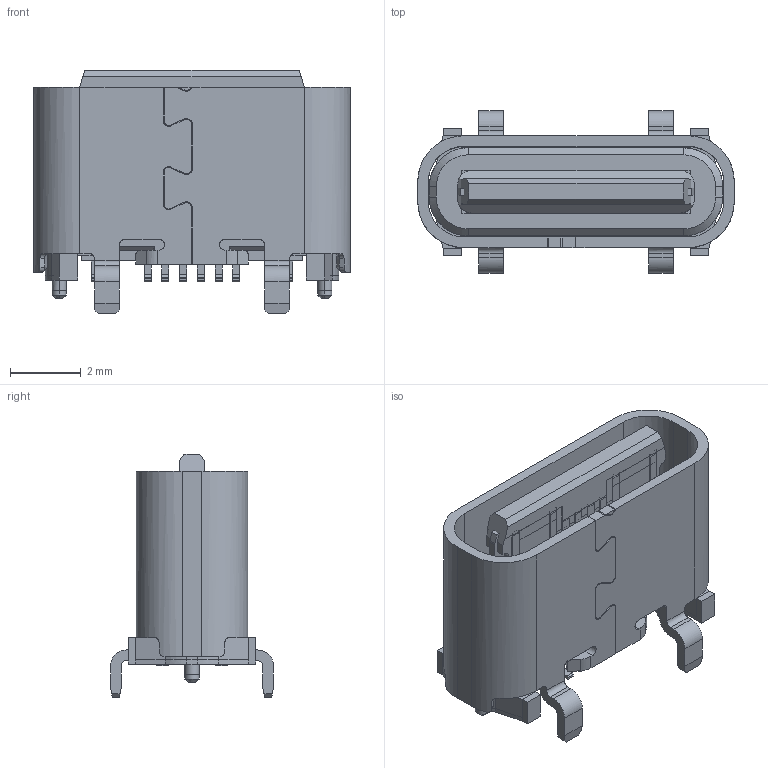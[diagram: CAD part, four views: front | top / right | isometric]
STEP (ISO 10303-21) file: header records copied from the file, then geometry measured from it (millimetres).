
FILE_DESCRIPTION (( 'STEP AP203' ), '1' );
FILE_NAME ('郔陔TC 16P 蕾泂5.5.STEP', '2021-08-27T08:33:48', ( '' ), ( '' ), 'SwSTEP 2.0', 'SolidWorks 2020', '' );
FILE_SCHEMA (( 'CONFIG_CONTROL_DESIGN' ));
Length unit declared in the file: millimetre
Products named in the file (15): 6_5HMD0003_ASM_27_ASM_1_ASM_2_ASM.STEP; 6_5HMD0002_30_ASM_1_ASM_2_ASM_1.STEP; TC 16P 6.5H ________ ______.STEP; 6_5H0006_____ ____.STEP; 最新TC 16P  立贴6.5大脚脚长0.95.STEP; 郔陔TC 16P  蕾泂5.5; 6_5HMD__________.STEP; TC 16P 6.5 ____________-1.STEP; TC 16P 6.5 ____________.STEP; 6_5H MD003______.STEP; TC 16P 6.5H __________.STEP; 6_40001_ASM_13_ASM_1_ASM_2_ASM_1-1.STEP; TC 16P 6.5H __________-0.STEP; 6_400_____.STEP
Assembly tree (14 placements, depth 6):
  郔陔TC 16P  蕾泂5.5
    最新TC 16P  立贴6.5大脚脚长0.95.STEP
      TC 16P 6.5 ____________.STEP
        TC 16P 6.5H __________.STEP
        TC 16P 6.5H ________ ______.STEP
      TC 16P 6.5 ____________-1.STEP
        TC 16P 6.5H __________-0.STEP
        TC 16P 6.5H ________ ______.STEP
      6_5HMD__________.STEP
        6_5HMD0002_30_ASM_1_ASM_2_ASM_1.STEP
          6_5H MD003______.STEP
        6_5HMD0003_ASM_27_ASM_1_ASM_2_ASM.STEP
          6_40001_ASM_13_ASM_1_ASM_2_ASM_1-1.STEP
            6_400_____.STEP
      6_5H0006_____ ____.STEP
Bounding box: 8.94 x 4.6 x 6.88 mm (x, y, z)
Volume: 56.4 mm3; surface area: 664.5 mm2
Topology: 21 solids, 26 shells, 1625 faces, 4728 edges, 3109 vertices
Faces by surface type: plane 1209, cylinder 374, cone 32, bspline 10
Entity records: 56912 total; most frequent: CARTESIAN_POINT 14412, ORIENTED_EDGE 9438, DIRECTION 7232, EDGE_CURVE 4724, VERTEX_POINT 3109, VECTOR 2758, LINE 2758, AXIS2_PLACEMENT_3D 2237
